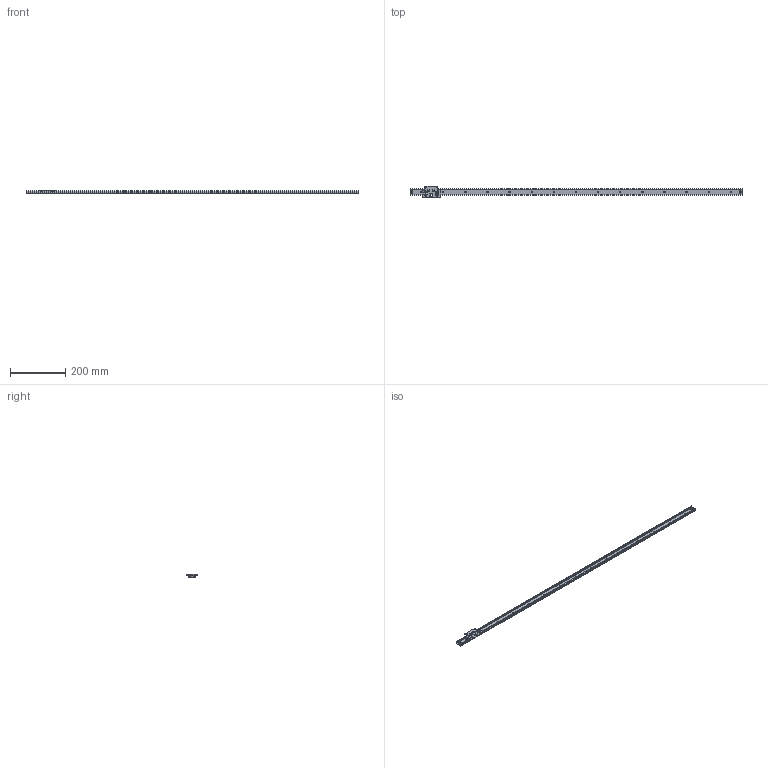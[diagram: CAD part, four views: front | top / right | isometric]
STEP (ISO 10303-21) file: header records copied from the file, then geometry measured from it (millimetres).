
FILE_DESCRIPTION((''),'1');
FILE_NAME('C:/Users/t-inoue/Desktop/25SW1200SS hp.stp','2016-07-29T02:44:15',(''),(''),'Spatial Interop R21 SP3','Kubotek KeyCreator 2011 V10.0.2 (22737)',' ');
FILE_SCHEMA(('automotive_design'));
Length unit declared in the file: millimetre
Products named in the file (433): Unnamed[1]
Bounding box: 1200 x 42 x 12 mm (x, y, z)
Surface area: 107564.2 mm2 (no closed solid volume)
Topology: 0 solids, 433 shells, 433 faces, 1958 edges, 1837 vertices
Faces by surface type: plane 207, cylinder 148, cone 69, torus 8, sphere 1
Full cylindrical faces by diameter (mm): 1.6 x1, 3.2 x6, 3.3 x4, 3.5 x1, 4 x10, 5 x6, 5.5 x4, 5.6 x2, 7 x6, 8.2 x2
Entity records: 38135 total; most frequent: CARTESIAN_POINT 4750, DIRECTION 4361, ORIENTED_EDGE 1810, EDGE_CURVE 1810, VERTEX_POINT 1810, PRESENTATION_STYLE_ASSIGNMENT 1732, COLOUR_RGB 1732, AXIS2_PLACEMENT_3D 1693
